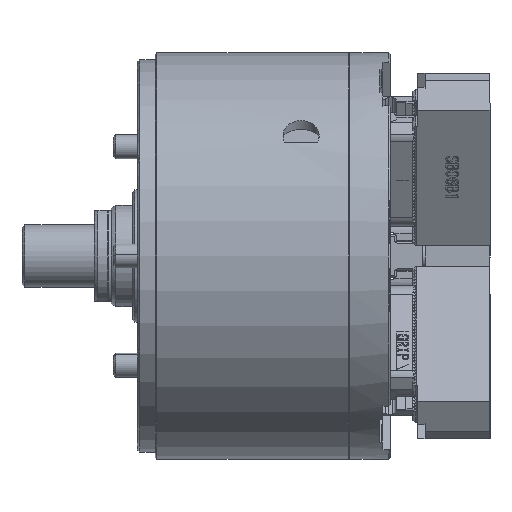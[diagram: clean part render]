
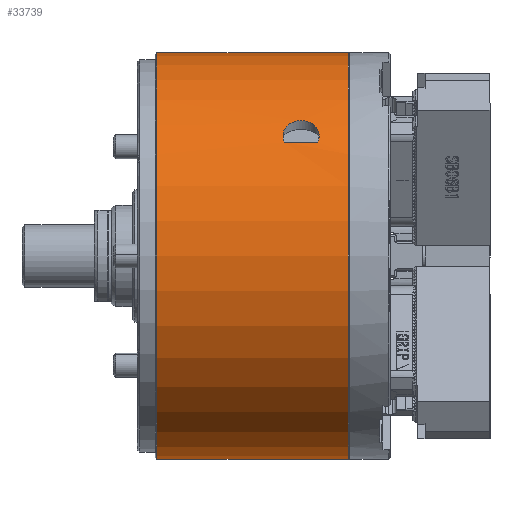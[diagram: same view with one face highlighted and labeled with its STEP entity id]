
A CAD part, front view. The second image highlights one B-rep face of the part: STEP entity #33739.
In plain terms, the highlighted cylindrical face has radius 84.5 mm (diameter 169 mm), a partial arc.
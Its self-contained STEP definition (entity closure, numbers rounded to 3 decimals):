
#5289 = CARTESIAN_POINT ( 'NONE',  ( -70.699, -69.987, 47.35 ) ) ;
#5784 = CARTESIAN_POINT ( 'NONE',  ( -33.555, -66.442, 52.209 ) ) ;
#6291 = DIRECTION ( 'NONE',  ( -1., 0., 0. ) ) ;
#6395 = CARTESIAN_POINT ( 'NONE',  ( -28.75, -63.305, 55.971 ) ) ;
#6978 = CARTESIAN_POINT ( 'NONE',  ( -21.753, -64.223, 54.918 ) ) ;
#7590 = CARTESIAN_POINT ( 'NONE',  ( -18.977, -68.165, 49.942 ) ) ;
#7734 = DIRECTION ( 'NONE',  ( -1., 0., 0. ) ) ;
#15840 = CARTESIAN_POINT ( 'NONE',  ( -33.402, -69.987, 47.35 ) ) ;
#18482 = FACE_BOUND ( 'NONE', #172967, .T. ) ;
#19233 = CARTESIAN_POINT ( 'NONE',  ( -33.635, -69.646, 47.855 ) ) ;
#19817 = CARTESIAN_POINT ( 'NONE',  ( -33.191, -65.881, 52.915 ) ) ;
#20134 = CARTESIAN_POINT ( 'NONE',  ( -19.598, -69.987, 47.35 ) ) ;
#20442 = CARTESIAN_POINT ( 'NONE',  ( -27.808, -63.144, 56.153 ) ) ;
#21038 = CARTESIAN_POINT ( 'NONE',  ( -20.857, -64.833, 54.194 ) ) ;
#21096 = AXIS2_PLACEMENT_3D ( 'NONE', #165691, #68236, #137611 ) ;
#21629 = CARTESIAN_POINT ( 'NONE',  ( -19.15, -69.099, 48.638 ) ) ;
#22130 = EDGE_CURVE ( 'NONE', #166909, #175875, #150753, .T. ) ;
#26020 = ORIENTED_EDGE ( 'NONE', *, *, #111490, .T. ) ;
#28395 = ORIENTED_EDGE ( 'NONE', *, *, #91099, .T. ) ;
#28861 = CARTESIAN_POINT ( 'NONE',  ( -70.699, 0., 84.5 ) ) ;
#32248 = LINE ( 'NONE', #28861, #139093 ) ;
#32817 = VERTEX_POINT ( 'NONE', #173615 ) ;
#33248 = CARTESIAN_POINT ( 'NONE',  ( -86.4, 0., 84.5 ) ) ;
#33739 = ADVANCED_FACE ( 'NONE', ( #162424, #18482 ), #51258, .T. ) ;
#33863 = CARTESIAN_POINT ( 'NONE',  ( -32.727, -65.349, 53.57 ) ) ;
#34455 = CARTESIAN_POINT ( 'NONE',  ( -26.52, -63.054, 56.254 ) ) ;
#35057 = CARTESIAN_POINT ( 'NONE',  ( -20.289, -65.333, 53.59 ) ) ;
#35068 = CIRCLE ( 'NONE', #140397, 84.5 ) ;
#35663 = CARTESIAN_POINT ( 'NONE',  ( -19.382, -69.642, 47.858 ) ) ;
#36204 = VECTOR ( 'NONE', #7734, 1000. ) ;
#40824 = B_SPLINE_CURVE_WITH_KNOTS ( 'NONE', 3,
 ( #47290, #19233, #130752, #144770, #61306, #158803, #75386, #172849, #89316, #5784, #103394, #19817, #117366, #33863, #131347, #47888, #145380, #61913, #159393, #75980, #173452, #89911, #6395, #103975, #20442, #117959, #34455, #131941, #48497, #145965, #62520, #160001, #76570, #174069, #90522, #6978, #104566, #21038, #118564, #35057, #132532, #49114, #146578, #63115, #160607, #77186, #174670, #91119, #7590, #105170, #21629, #119171, #35663, #133113, #49734 ),
 .UNSPECIFIED., .F., .F.,
 ( 4, 2, 2, 2, 2, 2, 2, 2, 2, 2, 2, 2, 2, 1, 2, 2, 2, 2, 2, 2, 2, 2, 2, 2, 2, 2, 2, 4 ),
 ( 0., 0.002, 0.003, 0.004, 0.006, 0.007, 0.008, 0.009, 0.01, 0.012, 0.013, 0.014, 0.014, 0.015, 0.016, 0.017, 0.018, 0.019, 0.021, 0.022, 0.023, 0.024, 0.025, 0.026, 0.027, 0.029, 0.03, 0.031 ),
 .UNSPECIFIED. ) ;
#42864 = DIRECTION ( 'NONE',  ( -1., 0., 0. ) ) ;
#47290 = CARTESIAN_POINT ( 'NONE',  ( -33.402, -69.987, 47.35 ) ) ;
#47888 = CARTESIAN_POINT ( 'NONE',  ( -32.16, -64.847, 54.178 ) ) ;
#48497 = CARTESIAN_POINT ( 'NONE',  ( -25.23, -63.139, 56.158 ) ) ;
#49114 = CARTESIAN_POINT ( 'NONE',  ( -19.818, -65.869, 52.93 ) ) ;
#49268 = CARTESIAN_POINT ( 'NONE',  ( -70.699, 0., -84.5 ) ) ;
#49734 = CARTESIAN_POINT ( 'NONE',  ( -19.598, -69.987, 47.35 ) ) ;
#51258 = CYLINDRICAL_SURFACE ( 'NONE', #21096, 84.5 ) ;
#51760 = EDGE_CURVE ( 'NONE', #111783, #32817, #77735, .T. ) ;
#56999 = EDGE_LOOP ( 'NONE', ( #173786, #79431, #28395, #100774 ) ) ;
#61306 = CARTESIAN_POINT ( 'NONE',  ( -33.976, -68.552, 49.407 ) ) ;
#61913 = CARTESIAN_POINT ( 'NONE',  ( -31.274, -64.238, 54.9 ) ) ;
#62520 = CARTESIAN_POINT ( 'NONE',  ( -24.287, -63.297, 55.98 ) ) ;
#63115 = CARTESIAN_POINT ( 'NONE',  ( -19.452, -66.431, 52.224 ) ) ;
#68236 = DIRECTION ( 'NONE',  ( -1., 0., 0. ) ) ;
#75386 = CARTESIAN_POINT ( 'NONE',  ( -34.002, -67.977, 50.195 ) ) ;
#75980 = CARTESIAN_POINT ( 'NONE',  ( -29.934, -63.644, 55.585 ) ) ;
#76570 = CARTESIAN_POINT ( 'NONE',  ( -23.388, -63.535, 55.709 ) ) ;
#77186 = CARTESIAN_POINT ( 'NONE',  ( -19.193, -67.003, 51.488 ) ) ;
#77735 = LINE ( 'NONE', #49268, #36204 ) ;
#79431 = ORIENTED_EDGE ( 'NONE', *, *, #96195, .T. ) ;
#80431 = CARTESIAN_POINT ( 'NONE',  ( -86.4, 0., 0. ) ) ;
#88216 = DIRECTION ( 'NONE',  ( -1., 0., 0. ) ) ;
#89316 = CARTESIAN_POINT ( 'NONE',  ( -33.83, -67.017, 51.472 ) ) ;
#89804 = CARTESIAN_POINT ( 'NONE',  ( -6.9, 0., 0. ) ) ;
#89911 = CARTESIAN_POINT ( 'NONE',  ( -29.053, -63.376, 55.89 ) ) ;
#90522 = CARTESIAN_POINT ( 'NONE',  ( -22.258, -63.961, 55.221 ) ) ;
#91099 = EDGE_CURVE ( 'NONE', #104945, #126616, #32248, .T. ) ;
#91119 = CARTESIAN_POINT ( 'NONE',  ( -19.04, -67.585, 50.721 ) ) ;
#93386 = CARTESIAN_POINT ( 'NONE',  ( -6.9, 0., 84.5 ) ) ;
#94406 = DIRECTION ( 'NONE',  ( 0., 0., 1. ) ) ;
#96195 = EDGE_CURVE ( 'NONE', #111783, #104945, #35068, .T. ) ;
#100774 = ORIENTED_EDGE ( 'NONE', *, *, #123607, .F. ) ;
#103394 = CARTESIAN_POINT ( 'NONE',  ( -33.444, -66.251, 52.451 ) ) ;
#103880 = DIRECTION ( 'NONE',  ( 0., 0., 1. ) ) ;
#103975 = CARTESIAN_POINT ( 'NONE',  ( -28.128, -63.189, 56.102 ) ) ;
#104566 = CARTESIAN_POINT ( 'NONE',  ( -21.07, -64.673, 54.384 ) ) ;
#104945 = VERTEX_POINT ( 'NONE', #93386 ) ;
#105170 = CARTESIAN_POINT ( 'NONE',  ( -19.005, -68.543, 49.422 ) ) ;
#111490 = EDGE_CURVE ( 'NONE', #175875, #166909, #40824, .T. ) ;
#111783 = VERTEX_POINT ( 'NONE', #157362 ) ;
#113194 = ORIENTED_EDGE ( 'NONE', *, *, #22130, .T. ) ;
#117366 = CARTESIAN_POINT ( 'NONE',  ( -33.048, -65.701, 53.139 ) ) ;
#117959 = CARTESIAN_POINT ( 'NONE',  ( -27.164, -63.084, 56.22 ) ) ;
#118564 = CARTESIAN_POINT ( 'NONE',  ( -20.467, -65.162, 53.798 ) ) ;
#119171 = CARTESIAN_POINT ( 'NONE',  ( -19.217, -69.283, 48.375 ) ) ;
#123193 = CIRCLE ( 'NONE', #179616, 84.5 ) ;
#123607 = EDGE_CURVE ( 'NONE', #32817, #126616, #123193, .T. ) ;
#126616 = VERTEX_POINT ( 'NONE', #33248 ) ;
#126767 = VECTOR ( 'NONE', #88216, 1000. ) ;
#130752 = CARTESIAN_POINT ( 'NONE',  ( -33.798, -69.291, 48.367 ) ) ;
#131347 = CARTESIAN_POINT ( 'NONE',  ( -32.55, -65.178, 53.778 ) ) ;
#131941 = CARTESIAN_POINT ( 'NONE',  ( -25.875, -63.082, 56.222 ) ) ;
#132532 = CARTESIAN_POINT ( 'NONE',  ( -19.965, -65.686, 53.157 ) ) ;
#133113 = CARTESIAN_POINT ( 'NONE',  ( -19.482, -69.817, 47.602 ) ) ;
#137611 = DIRECTION ( 'NONE',  ( 0., 0., 1. ) ) ;
#139093 = VECTOR ( 'NONE', #42864, 1000. ) ;
#140397 = AXIS2_PLACEMENT_3D ( 'NONE', #89804, #6291, #103880 ) ;
#144770 = CARTESIAN_POINT ( 'NONE',  ( -33.944, -68.739, 49.146 ) ) ;
#145380 = CARTESIAN_POINT ( 'NONE',  ( -31.948, -64.686, 54.369 ) ) ;
#145965 = CARTESIAN_POINT ( 'NONE',  ( -24.909, -63.183, 56.109 ) ) ;
#146578 = CARTESIAN_POINT ( 'NONE',  ( -19.561, -66.242, 52.462 ) ) ;
#150753 = LINE ( 'NONE', #5289, #126767 ) ;
#157362 = CARTESIAN_POINT ( 'NONE',  ( -6.9, 0., -84.5 ) ) ;
#158803 = CARTESIAN_POINT ( 'NONE',  ( -34.006, -68.169, 49.933 ) ) ;
#159393 = CARTESIAN_POINT ( 'NONE',  ( -30.772, -63.975, 55.204 ) ) ;
#160001 = CARTESIAN_POINT ( 'NONE',  ( -23.982, -63.368, 55.9 ) ) ;
#160607 = CARTESIAN_POINT ( 'NONE',  ( -19.268, -66.811, 51.736 ) ) ;
#162424 = FACE_OUTER_BOUND ( 'NONE', #56999, .T. ) ;
#165691 = CARTESIAN_POINT ( 'NONE',  ( -70.699, 0., 0. ) ) ;
#166909 = VERTEX_POINT ( 'NONE', #20134 ) ;
#172849 = CARTESIAN_POINT ( 'NONE',  ( -33.94, -67.401, 50.969 ) ) ;
#172967 = EDGE_LOOP ( 'NONE', ( #113194, #26020 ) ) ;
#173452 = CARTESIAN_POINT ( 'NONE',  ( -29.644, -63.546, 55.697 ) ) ;
#173615 = CARTESIAN_POINT ( 'NONE',  ( -86.4, 0., -84.5 ) ) ;
#173786 = ORIENTED_EDGE ( 'NONE', *, *, #51760, .F. ) ;
#174069 = CARTESIAN_POINT ( 'NONE',  ( -23.096, -63.633, 55.597 ) ) ;
#174670 = CARTESIAN_POINT ( 'NONE',  ( -19.079, -67.389, 50.981 ) ) ;
#175875 = VERTEX_POINT ( 'NONE', #15840 ) ;
#177974 = DIRECTION ( 'NONE',  ( -1., 0., 0. ) ) ;
#179616 = AXIS2_PLACEMENT_3D ( 'NONE', #80431, #177974, #94406 ) ;
